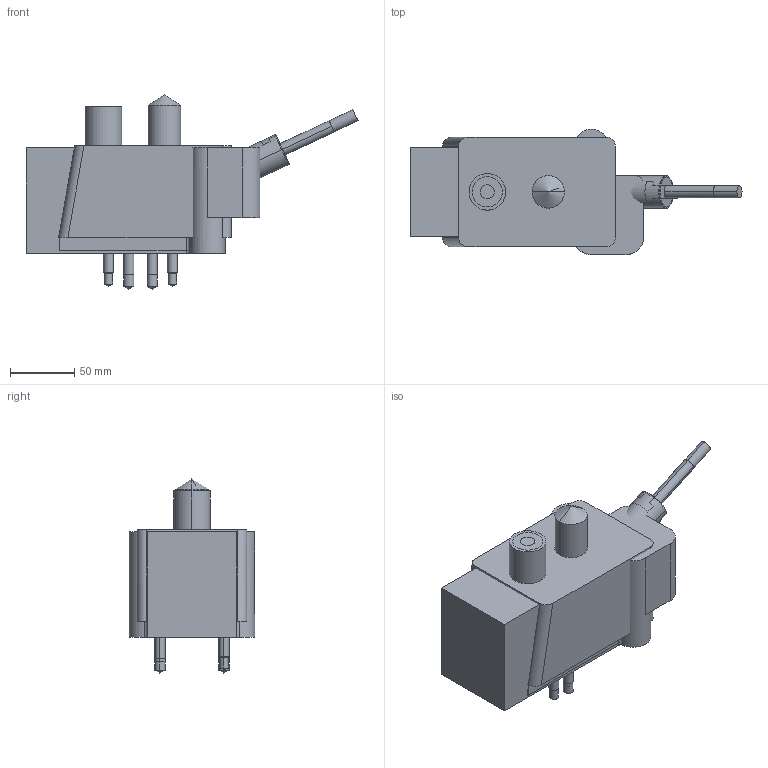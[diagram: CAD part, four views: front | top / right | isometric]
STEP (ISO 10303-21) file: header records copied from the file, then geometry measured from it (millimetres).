
FILE_DESCRIPTION((' '),'2;1');
FILE_NAME( 'EZ-25-P-L.stp', '2023-11-30T09:07:21', (' '), ('--- Datakit www.datakit.com---'), ' Datakit CrossCadWare V2020.4 Oct 21 2020', 'Export from SolidLink (Hexagon Production Software)', ' ');
FILE_SCHEMA(('AP242_MANAGED_MODEL_BASED_3D_ENGINEERING_MIM_LF { 1 0 10303 442 1 1 4 }'));
Length unit declared in the file: millimetre
Products named in the file (127): Workplanes; 1700579321; 1679436229; 1700504085; 1700504191; 1679428590; 1679428591; 1679428592; 1679428593; 1679428594; 1679428613; 1679428620; 1679428624; 1679428626; 1679428631; 1679428632; 1679428633; 1700842068; 1700842170; 1701271489; 1701353675; 1701353676; 1701353677; 1701353678; 1701353679; 1701353680; 1701353681; 1701353682; 1701353683; 1701353684; 1701353685; 1701353686; 1701353687; 1701353688; 1701353689; 1701353690; 1701353691; 1701353692; 1701353693; 1701353694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
Bounding box: 259.32 x 97.75 x 151.64 mm (x, y, z)
Volume: 2598023.6 mm3; surface area: 235159.4 mm2
Topology: 18 solids, 19 shells, 472 faces, 1332 edges, 1116 vertices
Faces by surface type: cylinder 184, plane 166, cone 102, sphere 6, torus 6, bspline 4, revolution 4
Entity records: 21115 total; most frequent: CARTESIAN_POINT 7459, DIRECTION 2738, ORIENTED_EDGE 2204, EDGE_CURVE 1108, AXIS2_PLACEMENT_3D 1078, VERTEX_POINT 708, VECTOR 578, LINE 578
